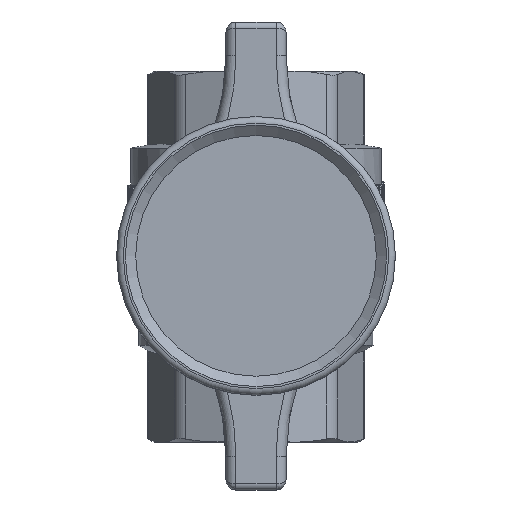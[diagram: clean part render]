
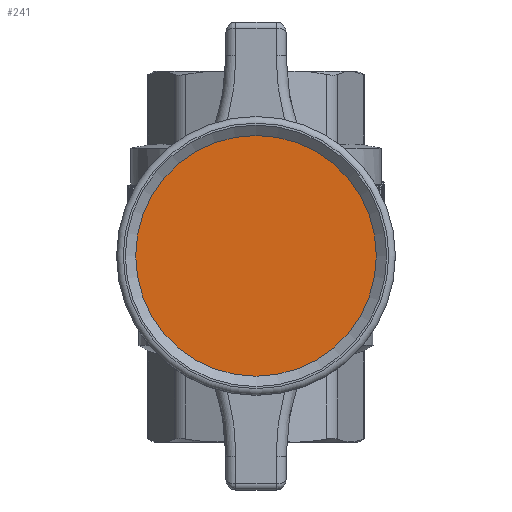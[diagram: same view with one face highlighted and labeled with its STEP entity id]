
A CAD part, top view. The second image highlights one B-rep face of the part: STEP entity #241.
In plain terms, the highlighted planar face has unit normal (0, 0, 1).
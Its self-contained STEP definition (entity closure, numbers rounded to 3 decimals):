
#241=ADVANCED_FACE('',(#4294),#4296,.T.);
#4294=FACE_BOUND('',#4295,.T.);
#4295=EDGE_LOOP('',(#10446));
#4296=PLANE('',#4297);
#4297=AXIS2_PLACEMENT_3D('',#4298,#4299,#4300);
#4298=CARTESIAN_POINT('',(0.,0.,86.4));
#4299=DIRECTION('',(0.,0.,1.));
#4300=DIRECTION('',(-1.,0.,0.));
#10446=ORIENTED_EDGE('',*,*,#15481,.T.);
#15481=EDGE_CURVE('',#18252,#18252,#18253,.T.);
#18252=VERTEX_POINT('',#25736);
#18253=CIRCLE('',#25737,18.);
#25736=CARTESIAN_POINT('',(-18.,0.,86.4));
#25737=AXIS2_PLACEMENT_3D('',#25738,#25739,#25740);
#25738=CARTESIAN_POINT('',(0.,0.,86.4));
#25739=DIRECTION('',(0.,0.,1.));
#25740=DIRECTION('',(-1.,0.,0.));
